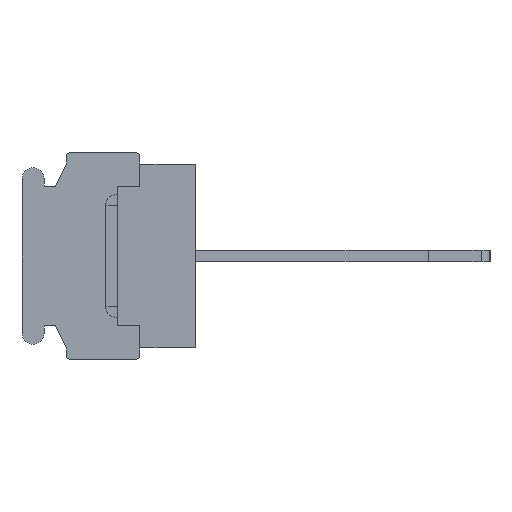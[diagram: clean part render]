
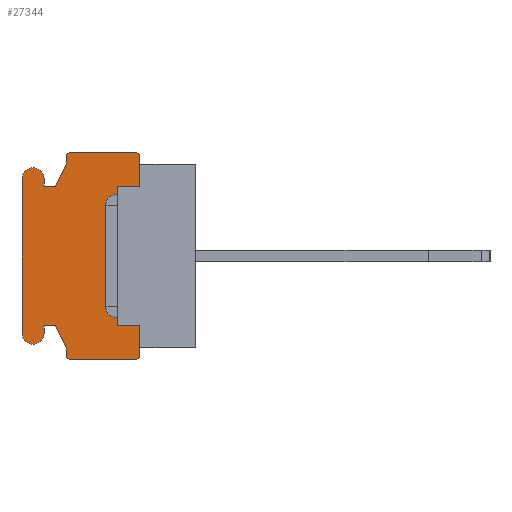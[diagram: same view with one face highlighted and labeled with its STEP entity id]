
A CAD part, left-side view. The second image highlights one B-rep face of the part: STEP entity #27344.
In plain terms, the highlighted planar face has unit normal (-1, 0, 0).
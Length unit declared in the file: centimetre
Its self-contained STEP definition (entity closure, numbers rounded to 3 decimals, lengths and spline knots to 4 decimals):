
#1582=PLANE('',#44483);
#2331=VECTOR('',#28717,1.);
#4234=VECTOR('',#32729,1.);
#4235=VECTOR('',#32730,1.);
#4236=VECTOR('',#32733,1.);
#4237=VECTOR('',#32736,1.);
#4238=VECTOR('',#32737,1.);
#4239=VECTOR('',#32738,1.);
#4240=VECTOR('',#32739,1.);
#4241=VECTOR('',#32742,1.);
#4242=VECTOR('',#32745,1.);
#4243=VECTOR('',#32746,1.);
#4244=VECTOR('',#32747,1.);
#4245=VECTOR('',#32748,1.);
#4246=VECTOR('',#32751,1.);
#4247=VECTOR('',#32754,1.);
#4248=VECTOR('',#32755,1.);
#4249=VECTOR('',#32756,1.);
#4250=VECTOR('',#32757,1.);
#5279=LINE('',#35493,#2331);
#7182=LINE('',#41164,#4234);
#7183=LINE('',#41166,#4235);
#7184=LINE('',#41170,#4236);
#7185=LINE('',#41174,#4237);
#7186=LINE('',#41176,#4238);
#7187=LINE('',#41178,#4239);
#7188=LINE('',#41180,#4240);
#7189=LINE('',#41184,#4241);
#7190=LINE('',#41188,#4242);
#7191=LINE('',#41190,#4243);
#7192=LINE('',#41192,#4244);
#7193=LINE('',#41194,#4245);
#7194=LINE('',#41198,#4246);
#7195=LINE('',#41202,#4247);
#7196=LINE('',#41203,#4248);
#7197=LINE('',#41205,#4249);
#7198=LINE('',#41206,#4250);
#8166=VERTEX_POINT('',#35494);
#8167=VERTEX_POINT('',#35495);
#8274=VERTEX_POINT('',#35791);
#8327=VERTEX_POINT('',#35902);
#9912=VERTEX_POINT('',#41165);
#9913=VERTEX_POINT('',#41167);
#9914=VERTEX_POINT('',#41169);
#9915=VERTEX_POINT('',#41171);
#9916=VERTEX_POINT('',#41173);
#9917=VERTEX_POINT('',#41175);
#9918=VERTEX_POINT('',#41177);
#9919=VERTEX_POINT('',#41179);
#9920=VERTEX_POINT('',#41181);
#9921=VERTEX_POINT('',#41183);
#9922=VERTEX_POINT('',#41185);
#9923=VERTEX_POINT('',#41187);
#9924=VERTEX_POINT('',#41189);
#9925=VERTEX_POINT('',#41191);
#9926=VERTEX_POINT('',#41193);
#9927=VERTEX_POINT('',#41195);
#9928=VERTEX_POINT('',#41197);
#9929=VERTEX_POINT('',#41199);
#9930=VERTEX_POINT('',#41201);
#9931=VERTEX_POINT('',#41204);
#10804=CIRCLE('',#44484,0.02);
#10805=CIRCLE('',#44485,0.02);
#10806=CIRCLE('',#44486,0.075);
#10807=CIRCLE('',#44487,0.075);
#10808=CIRCLE('',#44488,0.02);
#10809=CIRCLE('',#44489,0.02);
#11612=EDGE_CURVE('',#8166,#8167,#5279,.T.);
#14267=EDGE_CURVE('',#9912,#8274,#7182,.T.);
#14268=EDGE_CURVE('',#9913,#8274,#7183,.T.);
#14269=EDGE_CURVE('',#9914,#9913,#10804,.T.);
#14270=EDGE_CURVE('',#9915,#9914,#7184,.T.);
#14271=EDGE_CURVE('',#9916,#9915,#10805,.T.);
#14272=EDGE_CURVE('',#9917,#9916,#7185,.T.);
#14273=EDGE_CURVE('',#9918,#9917,#7186,.T.);
#14274=EDGE_CURVE('',#9919,#9918,#7187,.T.);
#14275=EDGE_CURVE('',#9920,#9919,#7188,.T.);
#14276=EDGE_CURVE('',#9921,#9920,#10806,.T.);
#14277=EDGE_CURVE('',#9922,#9921,#7189,.T.);
#14278=EDGE_CURVE('',#9923,#9922,#10807,.T.);
#14279=EDGE_CURVE('',#9924,#9923,#7190,.T.);
#14280=EDGE_CURVE('',#9925,#9924,#7191,.T.);
#14281=EDGE_CURVE('',#9926,#9925,#7192,.T.);
#14282=EDGE_CURVE('',#9927,#9926,#7193,.T.);
#14283=EDGE_CURVE('',#9928,#9927,#10808,.T.);
#14284=EDGE_CURVE('',#9929,#9928,#7194,.T.);
#14285=EDGE_CURVE('',#9930,#9929,#10809,.T.);
#14286=EDGE_CURVE('',#8327,#9930,#7195,.T.);
#14287=EDGE_CURVE('',#8327,#9931,#7196,.T.);
#14288=EDGE_CURVE('',#9931,#8166,#7197,.T.);
#14289=EDGE_CURVE('',#8167,#9912,#7198,.T.);
#21701=ORIENTED_EDGE('',*,*,#14267,.T.);
#21702=ORIENTED_EDGE('',*,*,#14268,.F.);
#21703=ORIENTED_EDGE('',*,*,#14269,.F.);
#21704=ORIENTED_EDGE('',*,*,#14270,.F.);
#21705=ORIENTED_EDGE('',*,*,#14271,.F.);
#21706=ORIENTED_EDGE('',*,*,#14272,.F.);
#21707=ORIENTED_EDGE('',*,*,#14273,.F.);
#21708=ORIENTED_EDGE('',*,*,#14274,.F.);
#21709=ORIENTED_EDGE('',*,*,#14275,.F.);
#21710=ORIENTED_EDGE('',*,*,#14276,.F.);
#21711=ORIENTED_EDGE('',*,*,#14277,.F.);
#21712=ORIENTED_EDGE('',*,*,#14278,.F.);
#21713=ORIENTED_EDGE('',*,*,#14279,.F.);
#21714=ORIENTED_EDGE('',*,*,#14280,.F.);
#21715=ORIENTED_EDGE('',*,*,#14281,.F.);
#21716=ORIENTED_EDGE('',*,*,#14282,.F.);
#21717=ORIENTED_EDGE('',*,*,#14283,.F.);
#21718=ORIENTED_EDGE('',*,*,#14284,.F.);
#21719=ORIENTED_EDGE('',*,*,#14285,.F.);
#21720=ORIENTED_EDGE('',*,*,#14286,.F.);
#21721=ORIENTED_EDGE('',*,*,#14287,.T.);
#21722=ORIENTED_EDGE('',*,*,#14288,.T.);
#21723=ORIENTED_EDGE('',*,*,#11612,.T.);
#21724=ORIENTED_EDGE('',*,*,#14289,.T.);
#24232=EDGE_LOOP('',(#21701,#21702,#21703,#21704,#21705,#21706,#21707,#21708,
#21709,#21710,#21711,#21712,#21713,#21714,#21715,#21716,#21717,#21718,#21719,
#21720,#21721,#21722,#21723,#21724));
#25838=FACE_BOUND('',#24232,.T.);
#27344=ADVANCED_FACE('',(#25838),#1582,.F.);
#28717=DIRECTION('',(0.,0.,1.));
#32728=DIRECTION('',(1.,0.,0.));
#32729=DIRECTION('',(0.,0.,1.));
#32730=DIRECTION('',(0.,0.,-1.));
#32731=DIRECTION('',(1.,0.,0.));
#32732=DIRECTION('',(0.,0.,-0.02));
#32733=DIRECTION('',(0.,-1.,0.));
#32734=DIRECTION('',(1.,0.,0.));
#32735=DIRECTION('',(0.,0.,-0.02));
#32736=DIRECTION('',(0.,0.,1.));
#32737=DIRECTION('',(0.,-0.447,0.894));
#32738=DIRECTION('',(0.,-1.,0.));
#32739=DIRECTION('',(0.,0.,-1.));
#32740=DIRECTION('',(1.,0.,0.));
#32741=DIRECTION('',(0.,0.,-0.075));
#32742=DIRECTION('',(0.,0.,1.));
#32743=DIRECTION('',(1.,0.,0.));
#32744=DIRECTION('',(0.,0.,-0.075));
#32745=DIRECTION('',(0.,0.,-1.));
#32746=DIRECTION('',(0.,1.,0.));
#32747=DIRECTION('',(0.,0.447,0.894));
#32748=DIRECTION('',(0.,0.,1.));
#32749=DIRECTION('',(1.,0.,0.));
#32750=DIRECTION('',(0.,0.,-0.02));
#32751=DIRECTION('',(0.,1.,0.));
#32752=DIRECTION('',(1.,0.,0.));
#32753=DIRECTION('',(0.,0.,-0.02));
#32754=DIRECTION('',(0.,0.,-1.));
#32755=DIRECTION('',(0.,0.,1.));
#32756=DIRECTION('',(0.,1.,0.));
#32757=DIRECTION('',(0.,-1.,0.));
#35493=CARTESIAN_POINT('',(-0.762,0.53,0.));
#35494=CARTESIAN_POINT('',(-0.762,0.53,-0.475));
#35495=CARTESIAN_POINT('',(-0.762,0.53,0.475));
#35791=CARTESIAN_POINT('',(-0.762,0.38,0.625));
#35902=CARTESIAN_POINT('',(-0.762,0.38,-0.625));
#41163=CARTESIAN_POINT('',(-0.762,0.6059,0.));
#41164=CARTESIAN_POINT('',(-0.762,0.38,0.275));
#41165=CARTESIAN_POINT('',(-0.762,0.38,0.475));
#41166=CARTESIAN_POINT('',(-0.762,0.38,0.68));
#41167=CARTESIAN_POINT('',(-0.762,0.38,0.68));
#41168=CARTESIAN_POINT('',(-0.762,0.4,0.68));
#41169=CARTESIAN_POINT('',(-0.762,0.4,0.7));
#41170=CARTESIAN_POINT('',(-0.762,0.86,0.7));
#41171=CARTESIAN_POINT('',(-0.762,0.86,0.7));
#41172=CARTESIAN_POINT('',(-0.762,0.86,0.68));
#41173=CARTESIAN_POINT('',(-0.762,0.88,0.68));
#41174=CARTESIAN_POINT('',(-0.762,0.88,0.625));
#41175=CARTESIAN_POINT('',(-0.762,0.88,0.625));
#41176=CARTESIAN_POINT('',(-0.762,0.955,0.475));
#41177=CARTESIAN_POINT('',(-0.762,0.955,0.475));
#41178=CARTESIAN_POINT('',(-0.762,1.03,0.475));
#41179=CARTESIAN_POINT('',(-0.762,1.03,0.475));
#41180=CARTESIAN_POINT('',(-0.762,1.03,0.525));
#41181=CARTESIAN_POINT('',(-0.762,1.03,0.525));
#41182=CARTESIAN_POINT('',(-0.762,1.105,0.525));
#41183=CARTESIAN_POINT('',(-0.762,1.18,0.525));
#41184=CARTESIAN_POINT('',(-0.762,1.18,-0.525));
#41185=CARTESIAN_POINT('',(-0.762,1.18,-0.525));
#41186=CARTESIAN_POINT('',(-0.762,1.105,-0.525));
#41187=CARTESIAN_POINT('',(-0.762,1.03,-0.525));
#41188=CARTESIAN_POINT('',(-0.762,1.03,-0.475));
#41189=CARTESIAN_POINT('',(-0.762,1.03,-0.475));
#41190=CARTESIAN_POINT('',(-0.762,0.955,-0.475));
#41191=CARTESIAN_POINT('',(-0.762,0.955,-0.475));
#41192=CARTESIAN_POINT('',(-0.762,0.88,-0.625));
#41193=CARTESIAN_POINT('',(-0.762,0.88,-0.625));
#41194=CARTESIAN_POINT('',(-0.762,0.88,-0.68));
#41195=CARTESIAN_POINT('',(-0.762,0.88,-0.68));
#41196=CARTESIAN_POINT('',(-0.762,0.86,-0.68));
#41197=CARTESIAN_POINT('',(-0.762,0.86,-0.7));
#41198=CARTESIAN_POINT('',(-0.762,0.4,-0.7));
#41199=CARTESIAN_POINT('',(-0.762,0.4,-0.7));
#41200=CARTESIAN_POINT('',(-0.762,0.4,-0.68));
#41201=CARTESIAN_POINT('',(-0.762,0.38,-0.68));
#41202=CARTESIAN_POINT('',(-0.762,0.38,-0.625));
#41203=CARTESIAN_POINT('',(-0.762,0.38,-0.275));
#41204=CARTESIAN_POINT('',(-0.762,0.38,-0.475));
#41205=CARTESIAN_POINT('',(-0.762,0.5304,-0.475));
#41206=CARTESIAN_POINT('',(-0.762,0.5304,0.475));
#44483=AXIS2_PLACEMENT_3D('',#41163,#32728,$);
#44484=AXIS2_PLACEMENT_3D('',#41168,#32731,#32732);
#44485=AXIS2_PLACEMENT_3D('',#41172,#32734,#32735);
#44486=AXIS2_PLACEMENT_3D('',#41182,#32740,#32741);
#44487=AXIS2_PLACEMENT_3D('',#41186,#32743,#32744);
#44488=AXIS2_PLACEMENT_3D('',#41196,#32749,#32750);
#44489=AXIS2_PLACEMENT_3D('',#41200,#32752,#32753);
